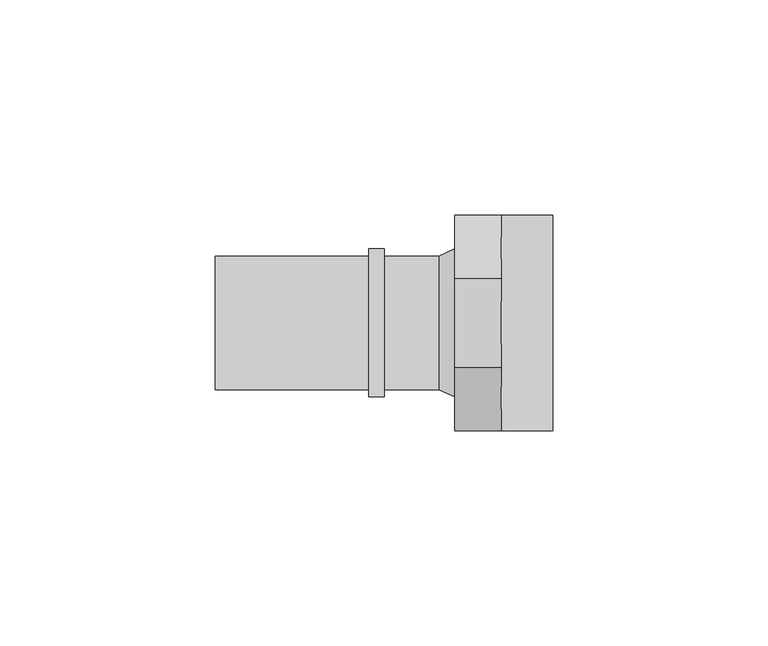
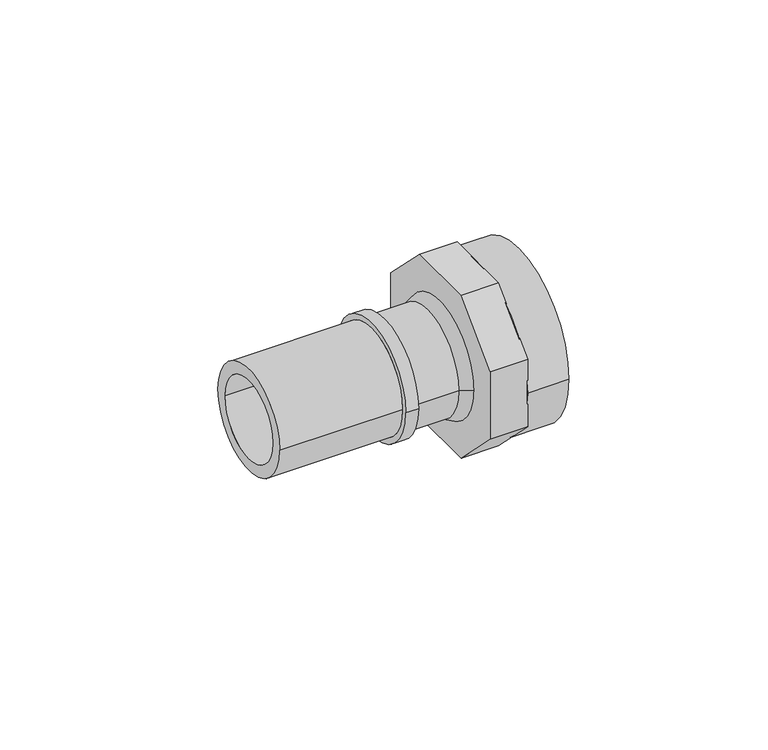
"""IFC4 building model written with IfcOpenShell, lengths in millimetres: pipe fitting geometry, FASTLOC_Adapter_LX, with internal thread : FSL A internal PL."""

from ifc_helpers import new_model, si_unit, point, frame, origin, origin_2d, place, context, project, spatial, polyline, circle_curve, trimmed, segment, composite_curve, outline, extrude, source, transform, mapped, element, save
from ifc_brep_helpers import plane_surface, cylinder_surface, revolved_surface, advanced_brep


def pipe_fitting_dabf108d(model_context):
    return source(origin(), model_context, "Body", "SolidModel", [
        extrude(outline(composite_curve([segment(trimmed(circle_curve(origin_2d(), 25.0), [point((-25.0, 0.0))], [point((25.0, 0.0))], False, "CARTESIAN"), True, "CONTINUOUS"), segment(trimmed(circle_curve(origin_2d(), 25.0), [point((25.0, 0.0))], [point((-25.0, 0.0))], False, "CARTESIAN"), True, "CONTINUOUS")], self_intersect=False), holes=[composite_curve([segment(trimmed(circle_curve(origin_2d(), 19.5), [point((-19.5, 0.0))], [point((19.5, 0.0))], True, "CARTESIAN"), True, "CONTINUOUS"), segment(trimmed(circle_curve(origin_2d(), 19.5), [point((19.5, 0.0))], [point((-19.5, 0.0))], True, "CARTESIAN"), True, "CONTINUOUS")], self_intersect=False)]), frame((10.8, 0.0, 0.0), z_axis=(1.0, 0.0, 0.0), x_axis=(0.0, 1.0, 0.0)), (0.0, 0.0, 1.0), 12.0),
        extrude(outline(polyline([(-10.3553391, -25.0), (-25.0, -10.3553391), (-25.0, 10.3553391), (-10.3553391, 25.0), (10.3553391, 25.0), (25.0, 10.3553391), (25.0, -10.3553391), (10.3553391, -25.0), (-10.3553391, -25.0)]), holes=[composite_curve([segment(trimmed(circle_curve(origin_2d(), 11.95), [point((-11.95, 0.0))], [point((11.95, 0.0))], True, "CARTESIAN"), True, "CONTINUOUS"), segment(trimmed(circle_curve(origin_2d(), 11.95), [point((11.95, 0.0))], [point((-11.95, 0.0))], True, "CARTESIAN"), True, "CONTINUOUS")], self_intersect=False)]), frame((0.0, 0.0, 0.0), z_axis=(1.0, 0.0, 0.0), x_axis=(0.0, 1.0, 0.0)), (0.0, 0.0, 1.0), 10.8),
        advanced_brep(
        [(-20.0, 15.5, 0.0), (-20.0, -15.5, 0.0), (-55.6, -15.5, 0.0), (-55.6, 15.5, 0.0), (-16.3, 17.2, 0.0), (-16.3, -17.2, 0.0), (-20.0, -17.2, 0.0), (-20.0, 17.2, 0.0), (-3.7, 15.5, 0.0), (-3.7, -15.5, 0.0), (-16.3, -15.5, 0.0), (-16.3, 15.5, 0.0), (0.0, 17.2, 0.0), (0.0, -17.2, 0.0), (-55.6, 11.95, 0.0), (-55.6, -11.95, 0.0), (0.0, -11.95, 0.0), (0.0, 11.95, 0.0)],
        [
            (0, 1, circle_curve(frame((-20.0, 0.0, 0.0), z_axis=(-1.0, 0.0, 0.0), x_axis=(0.0, -1.0, 0.0)), 15.5)),
            (1, 2),
            (2, 3, circle_curve(frame((-55.6, 0.0, 0.0), z_axis=(1.0, 0.0, 0.0), x_axis=(0.0, -1.0, 0.0)), 15.5)),
            (3, 0),
            (4, 5, circle_curve(frame((-16.3, 0.0, 0.0), z_axis=(-1.0, 0.0, 0.0), x_axis=(0.0, -1.0, 0.0)), 17.2)),
            (5, 6),
            (6, 7, circle_curve(frame((-20.0, 0.0, 0.0), z_axis=(1.0, 0.0, 0.0), x_axis=(0.0, -1.0, 0.0)), 17.2)),
            (7, 4),
            (8, 9, circle_curve(frame((-3.7, 0.0, 0.0), z_axis=(-1.0, 0.0, 0.0), x_axis=(0.0, -1.0, 0.0)), 15.5)),
            (9, 10),
            (10, 11, circle_curve(frame((-16.3, 0.0, 0.0), z_axis=(1.0, 0.0, 0.0), x_axis=(0.0, -1.0, 0.0)), 15.5)),
            (11, 8),
            (12, 13, circle_curve(frame((0.0, 0.0, 0.0), z_axis=(-1.0, 0.0, 0.0), x_axis=(0.0, -1.0, 0.0)), 17.2)),
            (13, 9),
            (8, 12),
            (14, 15, circle_curve(frame((-55.6, 0.0, 0.0), z_axis=(-1.0, 0.0, 0.0), x_axis=(0.0, -1.0, 0.0)), 11.95)),
            (15, 16),
            (16, 17, circle_curve(frame((0.0, 0.0, 0.0), z_axis=(1.0, 0.0, 0.0), x_axis=(0.0, -1.0, 0.0)), 11.95)),
            (17, 14),
            (2, 3, circle_curve(frame((-55.6, 0.0, 0.0), z_axis=(-1.0, 0.0, 0.0), x_axis=(0.0, 1.0, 0.0)), 15.5)),
            (14, 15, circle_curve(frame((-55.6, 0.0, 0.0), z_axis=(1.0, 0.0, 0.0), x_axis=(0.0, 1.0, 0.0)), 11.95)),
            (1, 0, circle_curve(frame((-20.0, 0.0, 0.0), z_axis=(-1.0, 0.0, 0.0), x_axis=(0.0, 1.0, 0.0)), 15.5)),
            (6, 7, circle_curve(frame((-20.0, 0.0, 0.0), z_axis=(-1.0, 0.0, 0.0), x_axis=(0.0, 1.0, 0.0)), 17.2)),
            (5, 4, circle_curve(frame((-16.3, 0.0, 0.0), z_axis=(-1.0, 0.0, 0.0), x_axis=(0.0, 1.0, 0.0)), 17.2)),
            (10, 11, circle_curve(frame((-16.3, 0.0, 0.0), z_axis=(-1.0, 0.0, 0.0), x_axis=(0.0, 1.0, 0.0)), 15.5)),
            (9, 8, circle_curve(frame((-3.7, 0.0, 0.0), z_axis=(-1.0, 0.0, 0.0), x_axis=(0.0, 1.0, 0.0)), 15.5)),
            (13, 12, circle_curve(frame((0.0, 0.0, 0.0), z_axis=(-1.0, 0.0, 0.0), x_axis=(0.0, 1.0, 0.0)), 17.2)),
            (16, 17, circle_curve(frame((0.0, 0.0, 0.0), z_axis=(-1.0, 0.0, 0.0), x_axis=(0.0, 1.0, 0.0)), 11.95)),
        ],
        [
            cylinder_surface(frame((0.0, 0.0, 0.0), z_axis=(1.0, 0.0, 0.0), x_axis=(0.0, -1.0, 0.0)), 15.5),
            cylinder_surface(frame((0.0, 0.0, 0.0), z_axis=(1.0, 0.0, 0.0), x_axis=(0.0, -1.0, 0.0)), 17.2),
            revolved_surface(polyline([(-3.7, -15.5, 0.0), (0.0, -17.2, 0.0)]), (0.0, 0.0, 0.0), (1.0, 0.0, 0.0)),
            revolved_surface(polyline([(0.0, -11.95, 0.0), (-55.6, -11.95, 0.0)]), (0.0, 0.0, 0.0), (1.0, 0.0, 0.0)),
            plane_surface(frame((-55.6, 0.0, 0.0), z_axis=(-1.0, 0.0, 0.0), x_axis=(0.0, 1.0, 0.0))),
            cylinder_surface(frame((0.0, 0.0, 0.0), z_axis=(1.0, 0.0, 0.0), x_axis=(0.0, 1.0, 0.0)), 15.5),
            plane_surface(frame((-20.0, 0.0, 0.0), z_axis=(-1.0, 0.0, 0.0), x_axis=(0.0, 1.0, 0.0))),
            cylinder_surface(frame((0.0, 0.0, 0.0), z_axis=(1.0, 0.0, 0.0), x_axis=(0.0, 1.0, 0.0)), 17.2),
            plane_surface(frame((-16.3, 0.0, 0.0), z_axis=(1.0, 0.0, 0.0), x_axis=(0.0, 1.0, 0.0))),
            revolved_surface(polyline([(-3.7, 15.5, 0.0), (0.0, 17.2, 0.0)]), (0.0, 0.0, 0.0), (1.0, 0.0, 0.0)),
            plane_surface(frame((0.0, 0.0, 0.0), z_axis=(1.0, 0.0, 0.0), x_axis=(0.0, 1.0, 0.0))),
            revolved_surface(polyline([(0.0, 11.95, 0.0), (-55.6, 11.95, 0.0)]), (0.0, 0.0, 0.0), (1.0, 0.0, 0.0)),
        ],
        [
            (0, [[1, 2, 3, 4]]),
            (1, [[5, 6, 7, 8]]),
            (0, [[9, 10, 11, 12]]),
            (2, [[13, 14, -9, 15]]),
            (3, [[16, 17, 18, 19]]),
            (4, [[20, -3], [21, -16]]),
            (5, [[22, -4, -20, -2]]),
            (6, [[23, -7], [-22, -1]]),
            (7, [[24, -8, -23, -6]]),
            (8, [[-24, -5], [25, -11]]),
            (5, [[26, -12, -25, -10]]),
            (9, [[27, -15, -26, -14]]),
            (10, [[-27, -13], [28, -18]]),
            (11, [[-21, -19, -28, -17]]),
        ],
    ),
    ])


if __name__ == "__main__":
    model = new_model("IFC4")
    model_context = context("Model", 3, world=origin())
    ifc_project = project(units=[si_unit("LENGTHUNIT", "METRE", prefix="MILLI")], contexts=[model_context])
    site = spatial("IfcSite", under=ifc_project)
    building = spatial("IfcBuilding", under=site)
    placement = place(None, origin())
    pipe_fitting_shape = pipe_fitting_dabf108d(model_context)
    element("IfcPipeFitting", 1, ObjectType="FASTLOC_Adapter_LX, with internal thread : FSL A internal PL", at=placement, inside=building, context=model_context, shape_type="MappedRepresentation", body=[
        mapped(pipe_fitting_shape, transform((0.0, 0.0, 0.0), x_axis=(1.0, 0.0, 0.0), y_axis=(0.0, 1.0, 0.0), z_axis=(0.0, 0.0, 1.0))),
    ])
    save(model, "model.ifc")
